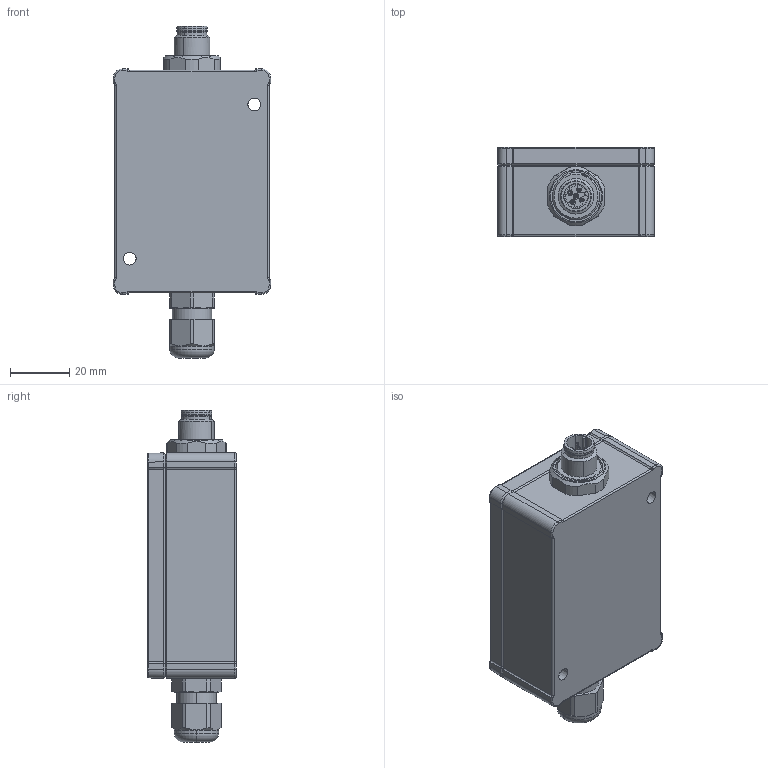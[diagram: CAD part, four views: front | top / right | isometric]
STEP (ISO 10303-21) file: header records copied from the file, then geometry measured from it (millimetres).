
FILE_DESCRIPTION((''),'2;1');
FILE_NAME('0000195164_SW0001','2020-03-02T11:50:35',('11000775'),(''),'CREO PARAMETRIC BY PTC INC, 2019030','CREO PARAMETRIC BY PTC INC, 2019030','');
FILE_SCHEMA(('AUTOMOTIVE_DESIGN { 1 0 10303 214 1 1 1 1 }'));
Length unit declared in the file: millimetre
Products named in the file (1): 0000195164_SW0001
Bounding box: 53 x 30 x 111.98 mm (x, y, z)
Volume: 119130.1 mm3; surface area: 19671.5 mm2
Topology: 1 solids, 1 shells, 636 faces, 1571 edges, 985 vertices
Faces by surface type: plane 284, cylinder 154, cone 82, torus 45, bspline 36, extrusion 35
Entity records: 36138 total; most frequent: CARTESIAN_POINT 11015, ORIENTED_EDGE 3142, DIRECTION 2963, PRESENTATION_STYLE_ASSIGNMENT 2247, STYLED_ITEM 1611, CURVE_STYLE 1610, EDGE_CURVE 1571, AXIS2_PLACEMENT_3D 1038
